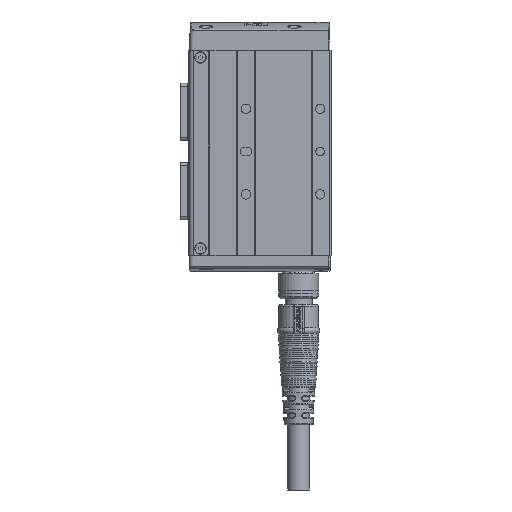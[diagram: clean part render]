
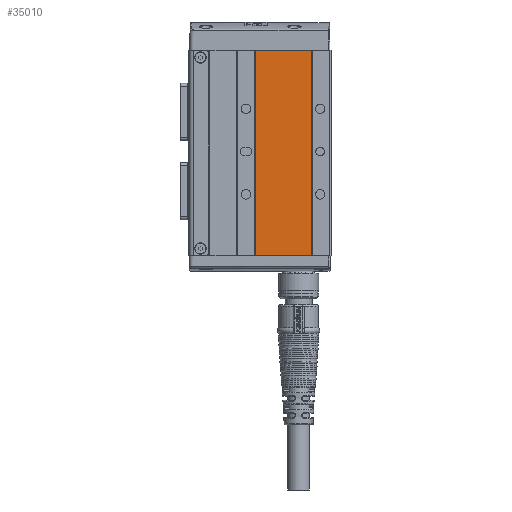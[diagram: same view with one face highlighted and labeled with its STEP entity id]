
A CAD part, left-side view. The second image highlights one B-rep face of the part: STEP entity #35010.
In plain terms, the highlighted planar face has unit normal (-1, 0, 0).
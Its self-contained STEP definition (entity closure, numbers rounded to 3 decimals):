
#5657=LINE('',#78869,#8034);
#5672=LINE('',#78908,#8049);
#5692=LINE('',#78954,#8069);
#5693=LINE('',#78956,#8070);
#8034=VECTOR('',#48847,1000.);
#8049=VECTOR('',#48876,1000.);
#8069=VECTOR('',#48910,1000.);
#8070=VECTOR('',#48913,1000.);
#9875=FACE_OUTER_BOUND('',#11929,.T.);
#11929=EDGE_LOOP('',(#32084,#32085,#32086,#32087));
#17309=VERTEX_POINT('',#78866);
#17310=VERTEX_POINT('',#78868);
#17326=VERTEX_POINT('',#78905);
#17327=VERTEX_POINT('',#78907);
#22245=EDGE_CURVE('',#17310,#17309,#5657,.T.);
#22265=EDGE_CURVE('',#17326,#17327,#5672,.T.);
#22290=EDGE_CURVE('',#17326,#17310,#5692,.T.);
#22291=EDGE_CURVE('',#17327,#17309,#5693,.T.);
#32084=ORIENTED_EDGE('',*,*,#22245,.T.);
#32085=ORIENTED_EDGE('',*,*,#22291,.F.);
#32086=ORIENTED_EDGE('',*,*,#22265,.F.);
#32087=ORIENTED_EDGE('',*,*,#22290,.T.);
#33217=PLANE('',#39037);
#35010=ADVANCED_FACE('',(#9875),#33217,.F.);
#39037=AXIS2_PLACEMENT_3D('',#78955,#48911,#48912);
#48847=DIRECTION('',(0.,-1.,0.));
#48876=DIRECTION('',(0.,-1.,0.));
#48910=DIRECTION('',(0.,0.,-1.));
#48911=DIRECTION('center_axis',(1.,0.,0.));
#48912=DIRECTION('ref_axis',(0.,1.,0.));
#48913=DIRECTION('',(0.,0.,-1.));
#78866=CARTESIAN_POINT('',(-15.2,6.997,-36.5));
#78868=CARTESIAN_POINT('',(-15.2,26.65,-36.5));
#78869=CARTESIAN_POINT('',(-15.2,26.65,-36.5));
#78905=CARTESIAN_POINT('',(-15.2,26.65,35.5));
#78907=CARTESIAN_POINT('',(-15.2,6.997,35.5));
#78908=CARTESIAN_POINT('',(-15.2,26.65,35.5));
#78954=CARTESIAN_POINT('',(-15.2,26.65,35.5));
#78955=CARTESIAN_POINT('Origin',(-15.2,26.65,35.5));
#78956=CARTESIAN_POINT('',(-15.2,6.997,35.5));
